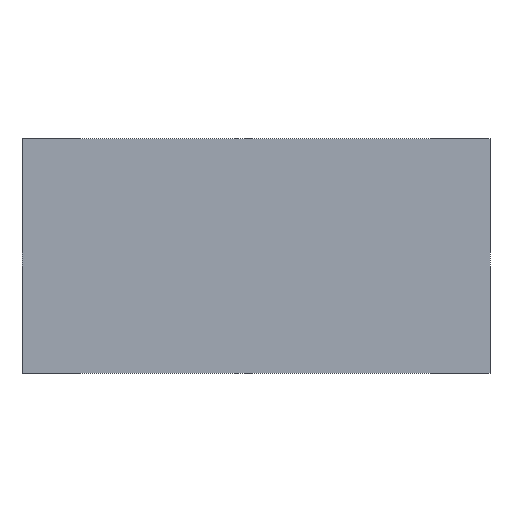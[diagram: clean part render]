
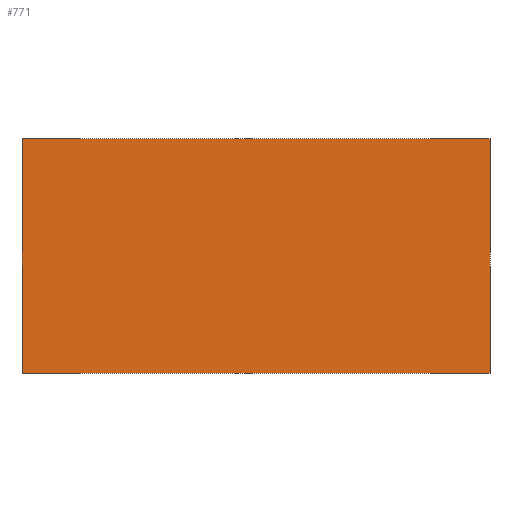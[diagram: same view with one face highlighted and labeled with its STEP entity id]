
A CAD part, front view. The second image highlights one B-rep face of the part: STEP entity #771.
In plain terms, the highlighted planar face has unit normal (0, -1, 0).
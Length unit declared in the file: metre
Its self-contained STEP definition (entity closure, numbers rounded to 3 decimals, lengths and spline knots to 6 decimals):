
#208=ORIENTED_EDGE('',*,*,#304,.T.);
#209=ORIENTED_EDGE('',*,*,#333,.T.);
#210=ORIENTED_EDGE('',*,*,#243,.F.);
#211=ORIENTED_EDGE('',*,*,#330,.F.);
#243=EDGE_CURVE('',#348,#349,#423,.T.);
#304=EDGE_CURVE('',#404,#403,#484,.T.);
#330=EDGE_CURVE('',#404,#348,#510,.T.);
#333=EDGE_CURVE('',#403,#349,#513,.T.);
#348=VERTEX_POINT('',#1037);
#349=VERTEX_POINT('',#1039);
#403=VERTEX_POINT('',#1158);
#404=VERTEX_POINT('',#1160);
#423=LINE('',#1038,#531);
#484=LINE('',#1159,#592);
#510=LINE('',#1211,#618);
#513=LINE('',#1216,#621);
#531=VECTOR('',#844,1.);
#592=VECTOR('',#915,1.);
#618=VECTOR('',#985,1.);
#621=VECTOR('',#992,1.);
#657=EDGE_LOOP('',(#208,#209,#210,#211));
#695=FACE_BOUND('',#657,.T.);
#733=PLANE('',#814);
#771=ADVANCED_FACE('',(#695),#733,.T.);
#814=AXIS2_PLACEMENT_3D('',#1217,#993,#994);
#844=DIRECTION('',(1.,0.,0.));
#915=DIRECTION('',(1.,0.,0.));
#985=DIRECTION('',(0.,0.,1.));
#992=DIRECTION('',(0.,0.,1.));
#993=DIRECTION('',(0.,-1.,0.));
#994=DIRECTION('',(1.,0.,0.));
#1037=CARTESIAN_POINT('',(0.012798,0.00075,-0.0276));
#1038=CARTESIAN_POINT('',(0.013973,0.00075,-0.0276));
#1039=CARTESIAN_POINT('',(0.014398,0.00075,-0.0276));
#1158=CARTESIAN_POINT('',(0.014398,0.00075,-0.0284));
#1159=CARTESIAN_POINT('',(0.012798,0.00075,-0.0284));
#1160=CARTESIAN_POINT('',(0.012798,0.00075,-0.0284));
#1211=CARTESIAN_POINT('',(0.012798,0.00075,-0.0284));
#1216=CARTESIAN_POINT('',(0.014398,0.00075,-0.0284));
#1217=CARTESIAN_POINT('',(0.012798,0.00075,-0.0284));
